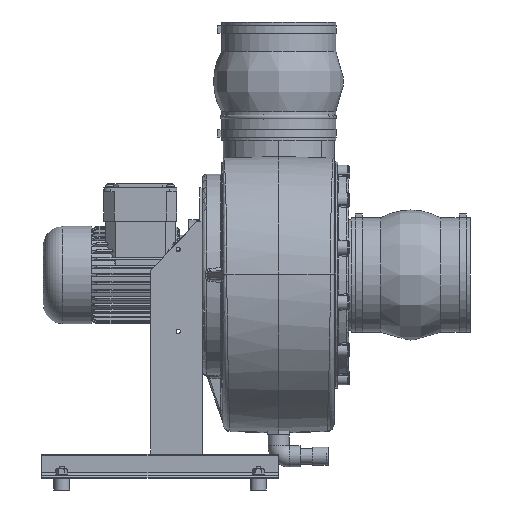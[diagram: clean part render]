
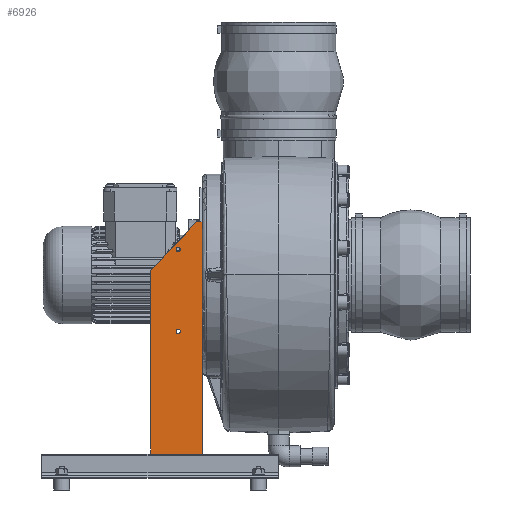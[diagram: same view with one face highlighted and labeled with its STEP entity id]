
A CAD part, left-side view. The second image highlights one B-rep face of the part: STEP entity #6926.
In plain terms, the highlighted planar face has unit normal (-1, 0, 0).
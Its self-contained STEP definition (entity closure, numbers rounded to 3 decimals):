
#6926 = ADVANCED_FACE( '', ( #14265, #14266, #14267 ), #14268, .T. );
#14265 = FACE_BOUND( '', #61697, .T. );
#14266 = FACE_BOUND( '', #61698, .T. );
#14267 = FACE_OUTER_BOUND( '', #61699, .T. );
#14268 = PLANE( '', #61700 );
#61697 = EDGE_LOOP( '', ( #92961 ) );
#61698 = EDGE_LOOP( '', ( #92962 ) );
#61699 = EDGE_LOOP( '', ( #92963, #92964, #92965, #92966, #92967 ) );
#61700 = AXIS2_PLACEMENT_3D( '', #92968, #92969, #92970 );
#92961 = ORIENTED_EDGE( '', *, *, #98627, .T. );
#92962 = ORIENTED_EDGE( '', *, *, #99064, .T. );
#92963 = ORIENTED_EDGE( '', *, *, #100973, .F. );
#92964 = ORIENTED_EDGE( '', *, *, #97984, .F. );
#92965 = ORIENTED_EDGE( '', *, *, #95768, .T. );
#92966 = ORIENTED_EDGE( '', *, *, #101933, .T. );
#92967 = ORIENTED_EDGE( '', *, *, #100008, .F. );
#92968 = CARTESIAN_POINT( '', ( -107., 65., -366. ) );
#92969 = DIRECTION( '', ( -1., 0., 0. ) );
#92970 = DIRECTION( '', ( 0., 0., 1. ) );
#95768 = EDGE_CURVE( '', #102832, #102844, #102846, .T. );
#97984 = EDGE_CURVE( '', #102832, #106524, #106528, .T. );
#98627 = EDGE_CURVE( '', #107518, #107518, #107519, .T. );
#99064 = EDGE_CURVE( '', #108168, #108168, #108169, .T. );
#100008 = EDGE_CURVE( '', #109438, #109441, #109442, .T. );
#100973 = EDGE_CURVE( '', #106524, #109438, #110637, .T. );
#101933 = EDGE_CURVE( '', #102844, #109441, #111756, .T. );
#102832 = VERTEX_POINT( '', #114997 );
#102844 = VERTEX_POINT( '', #115015 );
#102846 = LINE( '', #115018, #115019 );
#106524 = VERTEX_POINT( '', #128227 );
#106528 = LINE( '', #128233, #128234 );
#107518 = VERTEX_POINT( '', #131607 );
#107519 = CIRCLE( '', #131608, 2.75 );
#108168 = VERTEX_POINT( '', #134112 );
#108169 = CIRCLE( '', #134113, 2.75 );
#109438 = VERTEX_POINT( '', #139384 );
#109441 = VERTEX_POINT( '', #139388 );
#109442 = LINE( '', #139389, #139390 );
#110637 = LINE( '', #143668, #143669 );
#111756 = LINE( '', #148344, #148345 );
#114997 = CARTESIAN_POINT( '', ( -107., 65., -366. ) );
#115015 = CARTESIAN_POINT( '', ( -107., 0., -366. ) );
#115018 = CARTESIAN_POINT( '', ( -107., 65., -366. ) );
#115019 = VECTOR( '', #149418, 1000. );
#128227 = CARTESIAN_POINT( '', ( -107., 65., -104.1 ) );
#128233 = CARTESIAN_POINT( '', ( -107., 65., -366. ) );
#128234 = VECTOR( '', #151774, 1000. );
#131607 = CARTESIAN_POINT( '', ( -107., 30., -75.25 ) );
#131608 = AXIS2_PLACEMENT_3D( '', #152480, #152481, #152482 );
#134112 = CARTESIAN_POINT( '', ( -107., 30., -178.25 ) );
#134113 = AXIS2_PLACEMENT_3D( '', #152943, #152944, #152945 );
#139384 = CARTESIAN_POINT( '', ( -107., 6.72, -43. ) );
#139388 = CARTESIAN_POINT( '', ( -107., 0., -43. ) );
#139389 = CARTESIAN_POINT( '', ( -107., 428.925, -43. ) );
#139390 = VECTOR( '', #153893, 1000. );
#143668 = CARTESIAN_POINT( '', ( -107., 195.804, -241.233 ) );
#143669 = VECTOR( '', #154757, 1000. );
#148344 = CARTESIAN_POINT( '', ( -107., 0., -366. ) );
#148345 = VECTOR( '', #155380, 1000. );
#149418 = DIRECTION( '', ( 0., -1., 0. ) );
#151774 = DIRECTION( '', ( 0., 0., 1. ) );
#152480 = CARTESIAN_POINT( '', ( -107., 30., -78. ) );
#152481 = DIRECTION( '', ( 1., 0., 0. ) );
#152482 = DIRECTION( '', ( 0., 0., 1. ) );
#152943 = CARTESIAN_POINT( '', ( -107., 30., -181. ) );
#152944 = DIRECTION( '', ( 1., 0., 0. ) );
#152945 = DIRECTION( '', ( 0., 0., 1. ) );
#153893 = DIRECTION( '', ( 0., -1., 0. ) );
#154757 = DIRECTION( '', ( 0., -0.69, 0.724 ) );
#155380 = DIRECTION( '', ( 0., 0., 1. ) );
